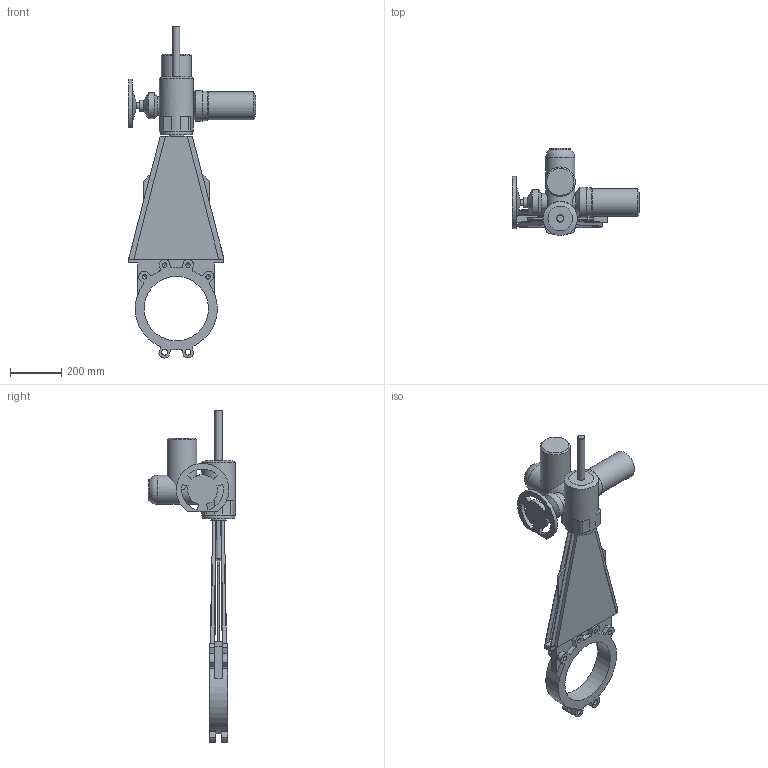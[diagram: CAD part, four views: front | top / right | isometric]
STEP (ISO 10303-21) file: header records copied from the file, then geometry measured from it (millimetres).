
FILE_DESCRIPTION(('STEP AP203'), '1');
FILE_NAME('K21GVA_DN250+MT903.A 10', '', ('UNSPECIFIED'), ('UNSPECIFIED'), 'ASCON STEP Converter 1.6', 'ASCON Math Kernel', '');
FILE_SCHEMA(('CONFIG_CONTROL_DESIGN'));
Length unit declared in the file: millimetre
Bounding box: 494 x 338 x 1289.55 mm (x, y, z)
Volume: 14672332.9 mm3; surface area: 1456208.5 mm2
Topology: 1 solids, 1 shells, 266 faces, 726 edges, 469 vertices
Faces by surface type: plane 146, cylinder 101, cone 18, torus 1
Full cylindrical faces by diameter (mm): 8.5 x4, 12 x4, 17.294 x8, 23 x4, 24 x1, 28 x2, 42 x1, 60 x1, 66 x1, 72 x1, 80 x1, 100 x1, 108 x1, 114 x1, 115 x1, 116 x1, 119 x1, 125 x1, 132 x1, 250 x1
Entity records: 11371 total; most frequent: CARTESIAN_POINT 2531, DIRECTION 1417, ORIENTED_EDGE 1322, EDGE_CURVE 661, AXIS2_PLACEMENT_3D 508, VERTEX_POINT 461, LINE 401, VECTOR 401
